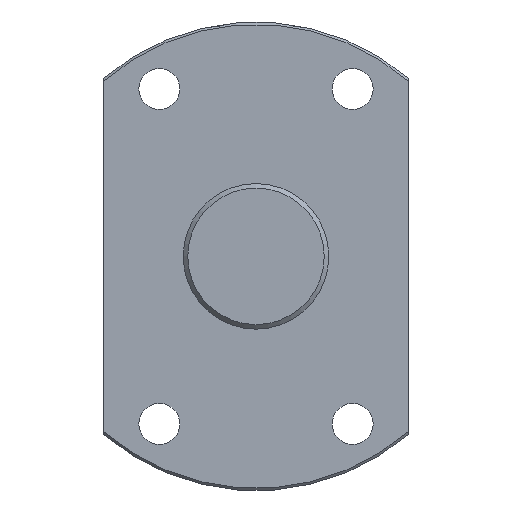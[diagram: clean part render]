
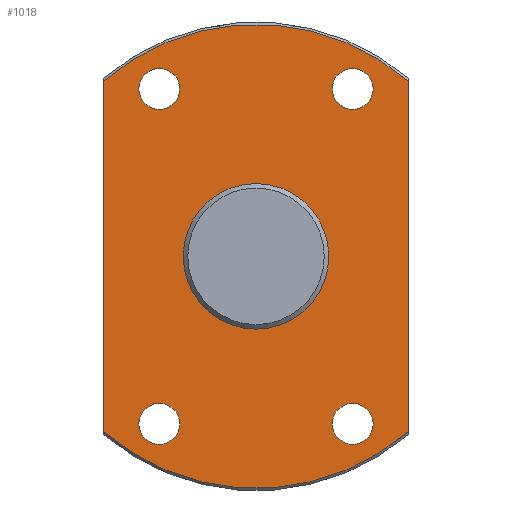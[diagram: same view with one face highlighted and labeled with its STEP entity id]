
A CAD part, left-side view. The second image highlights one B-rep face of the part: STEP entity #1018.
In plain terms, the highlighted planar face has unit normal (-1, 0, 0).
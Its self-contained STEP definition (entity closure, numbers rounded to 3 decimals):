
#315=CARTESIAN_POINT('',(449.083,-33.5,38.455));
#316=VERTEX_POINT('',#315);
#341=CARTESIAN_POINT('',(449.083,33.5,38.455));
#342=VERTEX_POINT('',#341);
#356=CARTESIAN_POINT('',(449.083,0.0,0.0));
#357=DIRECTION('',(1.0,0.0,0.0));
#358=DIRECTION('',(0.0,1.0,0.0));
#359=AXIS2_PLACEMENT_3D('',#356,#357,#358);
#360=CIRCLE('',#359,51.);
#361=EDGE_CURVE('',#342,#316,#360,.T.);
#478=CARTESIAN_POINT('',(449.083,-33.5,-38.455));
#479=VERTEX_POINT('',#478);
#480=CARTESIAN_POINT('',(449.083,-33.5,38.455));
#481=DIRECTION('',(0.0,0.0,-1.0));
#482=VECTOR('',#481,76.909);
#483=LINE('',#480,#482);
#484=EDGE_CURVE('',#316,#479,#483,.T.);
#560=CARTESIAN_POINT('',(449.083,33.5,-38.455));
#561=VERTEX_POINT('',#560);
#585=CARTESIAN_POINT('',(449.083,0.0,0.0));
#586=DIRECTION('',(1.0,0.0,0.0));
#587=DIRECTION('',(0.0,1.0,0.0));
#588=AXIS2_PLACEMENT_3D('',#585,#586,#587);
#589=CIRCLE('',#588,51.);
#590=EDGE_CURVE('',#479,#561,#589,.T.);
#671=CARTESIAN_POINT('',(449.083,33.5,-38.455));
#672=DIRECTION('',(0.0,0.0,1.0));
#673=VECTOR('',#672,76.909);
#674=LINE('',#671,#673);
#675=EDGE_CURVE('',#561,#342,#674,.T.);
#900=CARTESIAN_POINT('',(449.083,16.0,0.));
#901=VERTEX_POINT('',#900);
#902=CARTESIAN_POINT('',(449.083,0.0,0.0));
#903=DIRECTION('',(1.0,0.0,0.0));
#904=DIRECTION('',(0.0,-1.0,0.0));
#905=AXIS2_PLACEMENT_3D('',#902,#903,#904);
#906=CIRCLE('',#905,16.0);
#907=EDGE_CURVE('',#901,#901,#906,.T.);
#920=CARTESIAN_POINT('',(449.083,25.75,-36.806));
#921=VERTEX_POINT('',#920);
#922=CARTESIAN_POINT('',(449.083,21.25,-36.806));
#923=DIRECTION('',(1.0,0.0,0.0));
#924=DIRECTION('',(0.0,1.0,0.0));
#925=AXIS2_PLACEMENT_3D('',#922,#923,#924);
#926=CIRCLE('',#925,4.5);
#927=EDGE_CURVE('',#921,#921,#926,.T.);
#940=CARTESIAN_POINT('',(449.083,-16.75,36.806));
#941=VERTEX_POINT('',#940);
#942=CARTESIAN_POINT('',(449.083,-21.25,36.806));
#943=DIRECTION('',(1.0,0.0,0.0));
#944=DIRECTION('',(0.0,1.0,0.0));
#945=AXIS2_PLACEMENT_3D('',#942,#943,#944);
#946=CIRCLE('',#945,4.5);
#947=EDGE_CURVE('',#941,#941,#946,.T.);
#960=CARTESIAN_POINT('',(449.083,25.75,36.806));
#961=VERTEX_POINT('',#960);
#962=CARTESIAN_POINT('',(449.083,21.25,36.806));
#963=DIRECTION('',(1.0,0.0,0.0));
#964=DIRECTION('',(0.0,1.0,0.0));
#965=AXIS2_PLACEMENT_3D('',#962,#963,#964);
#966=CIRCLE('',#965,4.5);
#967=EDGE_CURVE('',#961,#961,#966,.T.);
#980=CARTESIAN_POINT('',(449.083,-16.75,-36.806));
#981=VERTEX_POINT('',#980);
#982=CARTESIAN_POINT('',(449.083,-21.25,-36.806));
#983=DIRECTION('',(1.0,0.0,0.0));
#984=DIRECTION('',(0.0,1.0,0.0));
#985=AXIS2_PLACEMENT_3D('',#982,#983,#984);
#986=CIRCLE('',#985,4.5);
#987=EDGE_CURVE('',#981,#981,#986,.T.);
#992=CARTESIAN_POINT('',(449.083,0.0,0.0));
#993=DIRECTION('',(-1.0,0.0,0.0));
#994=DIRECTION('',(0.0,0.0,1.0));
#995=AXIS2_PLACEMENT_3D('',#992,#993,#994);
#996=PLANE('',#995);
#997=ORIENTED_EDGE('',*,*,#361,.F.);
#998=ORIENTED_EDGE('',*,*,#675,.F.);
#999=ORIENTED_EDGE('',*,*,#590,.F.);
#1000=ORIENTED_EDGE('',*,*,#484,.F.);
#1001=EDGE_LOOP('',(#997,#998,#999,#1000));
#1002=FACE_OUTER_BOUND('',#1001,.T.);
#1003=ORIENTED_EDGE('',*,*,#907,.T.);
#1004=EDGE_LOOP('',(#1003));
#1005=FACE_BOUND('',#1004,.T.);
#1006=ORIENTED_EDGE('',*,*,#927,.T.);
#1007=EDGE_LOOP('',(#1006));
#1008=FACE_BOUND('',#1007,.T.);
#1009=ORIENTED_EDGE('',*,*,#947,.T.);
#1010=EDGE_LOOP('',(#1009));
#1011=FACE_BOUND('',#1010,.T.);
#1012=ORIENTED_EDGE('',*,*,#967,.T.);
#1013=EDGE_LOOP('',(#1012));
#1014=FACE_BOUND('',#1013,.T.);
#1015=ORIENTED_EDGE('',*,*,#987,.T.);
#1016=EDGE_LOOP('',(#1015));
#1017=FACE_BOUND('',#1016,.T.);
#1018=ADVANCED_FACE('',(#1002,#1005,#1008,#1011,#1014,#1017),#996,.T.);
